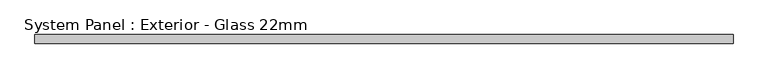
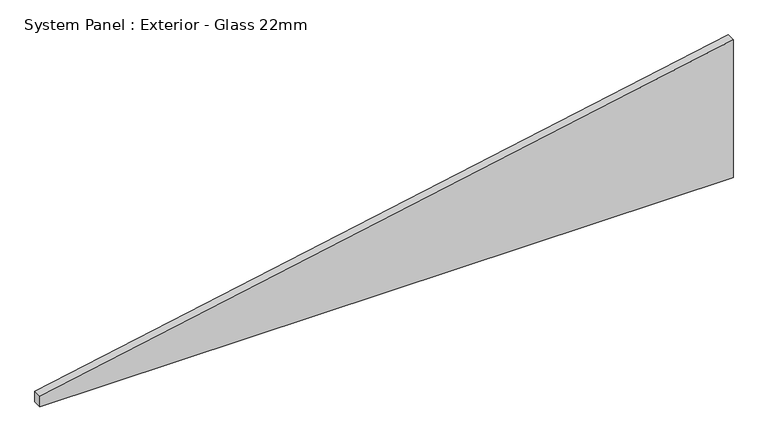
"""IFC4 building model written with IfcOpenShell, lengths in millimetres: plate geometry, System Panel : Exterior - Glass 22mm."""

import ifcopenshell
import ifcopenshell.guid

model = None  # the IFC model being written
_history = None  # IfcOwnerHistory: only IFC2X3 demands one
_inside = {}  # id of a spatial element -> (the spatial element, [elements in it])
_under = {}  # id of a project, library or spatial element -> (it, [spatial elements below it])
_declared = {}  # id of a project -> (the project, [libraries it declares])
_typed = {}  # id of a type object -> (the type object, [elements of that type])
_made_of = {}  # id of a material, layer set ... -> (it, [elements and type objects made of it])


def new_model(schema):
    """Start an empty IFC model of exactly this schema.

    Asked for "IFC4X3", IfcOpenShell would pick the latest addendum, in which some entities
    have other attributes; the version numbers below select the first issue.
    IFC2X3 requires an IfcOwnerHistory on every rooted entity: one is made here for all.
    """
    global model, _history
    if schema == "IFC4X3":
        model = ifcopenshell.file(schema_version=(4, 3, 0, 0))
    else:
        model = ifcopenshell.file(schema=schema)
    _inside.clear()
    _under.clear()
    _declared.clear()
    _typed.clear()
    _made_of.clear()
    _history = None
    if model.schema == "IFC2X3":
        org = make("IfcOrganization", Name="unknown")
        user = make(
            "IfcPersonAndOrganization",
            ThePerson=make("IfcPerson", FamilyName="unknown"),
            TheOrganization=org,
        )
        app = make(
            "IfcApplication",
            ApplicationDeveloper=org,
            Version="unknown",
            ApplicationFullName="unknown",
            ApplicationIdentifier="unknown",
        )
        _history = make(
            "IfcOwnerHistory",
            OwningUser=user,
            OwningApplication=app,
            ChangeAction="ADDED",
            CreationDate=0,
        )
    return model


def make(cls, **values):
    """One entity of the class cls with the attributes given. An attribute that is None is left unset."""
    return model.create_entity(
        cls, **{name: value for name, value in values.items() if value is not None}
    )


def rooted(cls, **values):
    """An entity with a GlobalId (a new one), such as an element, a storey or a relation."""
    return make(cls, GlobalId=ifcopenshell.guid.new(), OwnerHistory=_history, **values)


def si_unit(unit_type, name, prefix=None):
    """IfcSIUnit, for example si_unit("LENGTHUNIT", "METRE", prefix="MILLI")."""
    return make("IfcSIUnit", UnitType=unit_type, Prefix=prefix, Name=name)


def assignment(units):
    """IfcUnitAssignment: the units of a project."""
    return None if units is None else make("IfcUnitAssignment", Units=units)


def point(xyz):
    """IfcCartesianPoint."""
    return None if xyz is None else make("IfcCartesianPoint", Coordinates=xyz)


def direction(xyz):
    """IfcDirection."""
    return None if xyz is None else make("IfcDirection", DirectionRatios=xyz)


def frame(location, z_axis=None, x_axis=None):
    """IfcAxis2Placement3D, a coordinate frame: its origin and axes. An axis left out is left unset."""
    return make(
        "IfcAxis2Placement3D",
        Location=point(location),
        Axis=direction(z_axis),
        RefDirection=direction(x_axis),
    )


def origin():
    """The frame at (0, 0, 0) with its axes left unset."""
    return frame((0.0, 0.0, 0.0))


def place(relative_to, where):
    """IfcLocalPlacement: puts the frame where relative to a parent placement (None: the world)."""
    return make(
        "IfcLocalPlacement", PlacementRelTo=relative_to, RelativePlacement=where
    )


def context(
    kind, dimensions, precision=None, world=None, true_north=None, identifier=None
):
    """IfcGeometricRepresentationContext, for example the 3D "Model" context."""
    return make(
        "IfcGeometricRepresentationContext",
        ContextIdentifier=identifier,
        ContextType=kind,
        CoordinateSpaceDimension=dimensions,
        Precision=precision,
        WorldCoordinateSystem=world,
        TrueNorth=true_north,
    )


def project(units=None, contexts=None):
    """IfcProject with its units and contexts."""
    return rooted(
        "IfcProject",
        Name="project",
        RepresentationContexts=contexts,
        UnitsInContext=assignment(units),
    )


def spatial(cls, under=None, at=None, **own):
    """A site, building, storey or space (cls), placed at a placement, below another one or the project."""
    s = rooted(cls, ObjectPlacement=at, **own)
    if under is not None:
        _under.setdefault(under.id(), (under, []))[1].append(s)
    return s


def polyline(points):
    """IfcPolyline through the points."""
    return make("IfcPolyline", Points=[point(p) for p in points])


def outline(outer, holes=None, kind="AREA"):
    """IfcArbitraryClosedProfileDef: a profile drawn as a closed curve; with holes, ...WithVoids."""
    if holes is None:
        return make("IfcArbitraryClosedProfileDef", ProfileType=kind, OuterCurve=outer)
    return make(
        "IfcArbitraryProfileDefWithVoids",
        ProfileType=kind,
        OuterCurve=outer,
        InnerCurves=holes,
    )


def extrude(swept, where, along, depth):
    """IfcExtrudedAreaSolid: the profile swept, set in the frame where, extruded along a direction by depth."""
    return make(
        "IfcExtrudedAreaSolid",
        SweptArea=swept,
        Position=where,
        ExtrudedDirection=direction(along),
        Depth=depth,
    )


def shape(context_of_items, identifier, shape_type, items):
    """IfcShapeRepresentation: the items that make up one representation, for example the "Body"."""
    return make(
        "IfcShapeRepresentation",
        ContextOfItems=context_of_items,
        RepresentationIdentifier=identifier,
        RepresentationType=shape_type,
        Items=items,
    )


def source(mapping_origin, context_of_items, identifier, shape_type, items):
    """IfcRepresentationMap: a shape defined once, which mapped items show again and again."""
    return make(
        "IfcRepresentationMap",
        MappingOrigin=mapping_origin,
        MappedRepresentation=shape(context_of_items, identifier, shape_type, items),
    )


def transform(
    local_origin,
    x_axis=None,
    y_axis=None,
    z_axis=None,
    scale=None,
    scale2=None,
    scale3=None,
    uniform=True,
):
    """IfcCartesianTransformationOperator3D, or its non-uniform kind. x_axis, y_axis, z_axis: its Axis1, 2, 3."""
    if uniform:
        return make(
            "IfcCartesianTransformationOperator3D",
            Axis1=direction(x_axis),
            Axis2=direction(y_axis),
            LocalOrigin=point(local_origin),
            Scale=scale,
            Axis3=direction(z_axis),
        )
    return make(
        "IfcCartesianTransformationOperator3DnonUniform",
        Axis1=direction(x_axis),
        Axis2=direction(y_axis),
        LocalOrigin=point(local_origin),
        Scale=scale,
        Axis3=direction(z_axis),
        Scale2=scale2,
        Scale3=scale3,
    )


def mapped(mapping_source, mapping_target):
    """IfcMappedItem: shows the shape of a source again, moved by a transform."""
    return make(
        "IfcMappedItem", MappingSource=mapping_source, MappingTarget=mapping_target
    )


def made_of(thing, what):
    """Note that an element or type object is made of a material, layer set ...; save() writes the relation."""
    if what is not None:
        _made_of.setdefault(what.id(), (what, []))[1].append(thing)
    return thing


def element(
    cls,
    number,
    at=None,
    inside=None,
    cuts=None,
    type_object=None,
    material=None,
    context=None,
    identifier="Body",
    shape_type=None,
    held_by="IfcProductDefinitionShape",
    body=None,
    shapes=None,
    **own,
):
    """One element of the class cls, such as IfcWall. Its Tag is "e" and its number.

    at: its placement. inside: the storey or other place that contains it. cuts: it is an
    opening in that element (IfcRelVoidsElement). A single representation is given by context,
    identifier, shape_type and body (its items); several are given by shapes. held_by: the class
    of the entity that holds the representations. save() writes the other relations.
    """
    e = rooted(cls, Tag="e%d" % number, ObjectPlacement=at, **own)
    if body is not None:
        shapes = [shape(context, identifier, shape_type, body)]
    if shapes is not None:
        e.Representation = make(held_by, Representations=shapes)
    if inside is not None:
        _inside.setdefault(inside.id(), (inside, []))[1].append(e)
    if cuts is not None:
        rooted(
            "IfcRelVoidsElement", RelatingBuildingElement=cuts, RelatedOpeningElement=e
        )
    if type_object is not None:
        _typed.setdefault(type_object.id(), (type_object, []))[1].append(e)
    return made_of(e, material)


def aggregate(whole, parts):
    """IfcRelAggregates: a whole, such as a stair, and the parts it consists of."""
    return rooted("IfcRelAggregates", RelatingObject=whole, RelatedObjects=parts)


def save(model, path):
    """Write the relations noted so far, then the file.

    IfcRelAggregates (storeys below a building ...), IfcRelContainedInSpatialStructure (elements
    in a storey), IfcRelDefinesByType, IfcRelAssociatesMaterial and IfcRelDeclares: one each for
    every whole, place, type object, material and project.
    """
    for whole, parts in _under.values():
        aggregate(whole, parts)
    for where, things in _inside.values():
        rooted(
            "IfcRelContainedInSpatialStructure",
            RelatedElements=things,
            RelatingStructure=where,
        )
    for kind, things in _typed.values():
        rooted("IfcRelDefinesByType", RelatedObjects=things, RelatingType=kind)
    for what, things in _made_of.values():
        rooted("IfcRelAssociatesMaterial", RelatedObjects=things, RelatingMaterial=what)
    for by, libraries in _declared.values():
        rooted("IfcRelDeclares", RelatingContext=by, RelatedDefinitions=libraries)
    model.write(path)


def system_panel_exterior_glass_22mm_728c9ee8(model_context):
    return source(origin(), model_context, "Body", "SweptSolid", [
        extrude(outline(polyline([(0.0, -892.5), (0.0, 892.5), (374.8796545, 892.5), (27.9108027, -892.5), (0.0, -892.5)])), frame((0.0, -50.0, 0.0), z_axis=(0.0, 1.0, 0.0), x_axis=(0.0, 0.0, 1.0)), (0.0, 0.0, 1.0), 22.0),
    ])


if __name__ == "__main__":
    model = new_model("IFC4")
    model_context = context("Model", 3, world=origin())
    ifc_project = project(units=[si_unit("LENGTHUNIT", "METRE", prefix="MILLI")], contexts=[model_context])
    site = spatial("IfcSite", under=ifc_project)
    building = spatial("IfcBuilding", under=site)
    placement = place(None, origin())
    system_panel_exterior_glass_22mm_shape = system_panel_exterior_glass_22mm_728c9ee8(model_context)
    element("IfcPlate", 1, ObjectType="System Panel : Exterior - Glass 22mm", at=placement, inside=building, context=model_context, shape_type="MappedRepresentation", body=[
        mapped(system_panel_exterior_glass_22mm_shape, transform((0.0, 0.0, 0.0), x_axis=(1.0, 0.0, 0.0), y_axis=(0.0, 1.0, 0.0), z_axis=(0.0, 0.0, 1.0))),
    ])
    save(model, "model.ifc")
